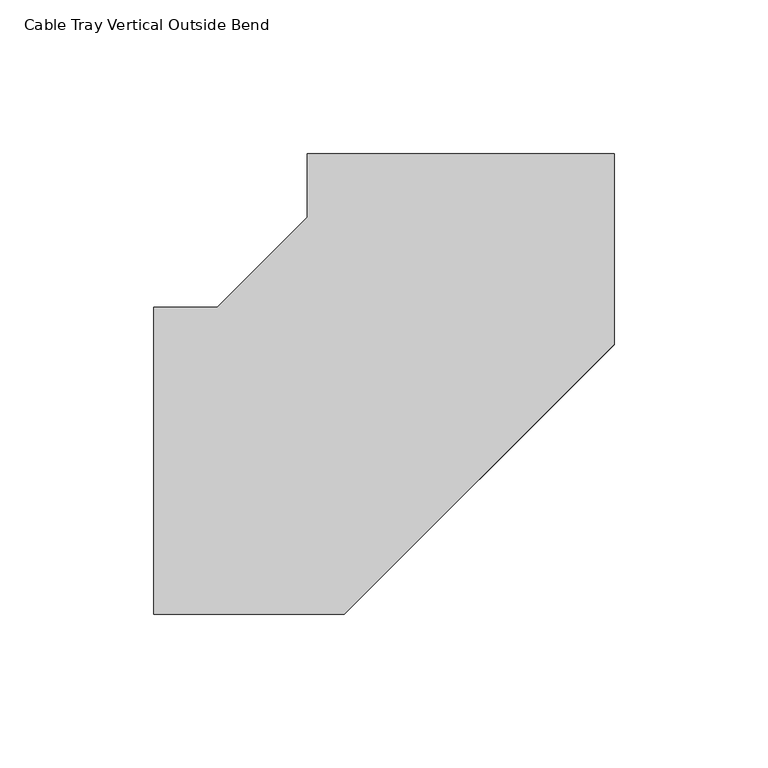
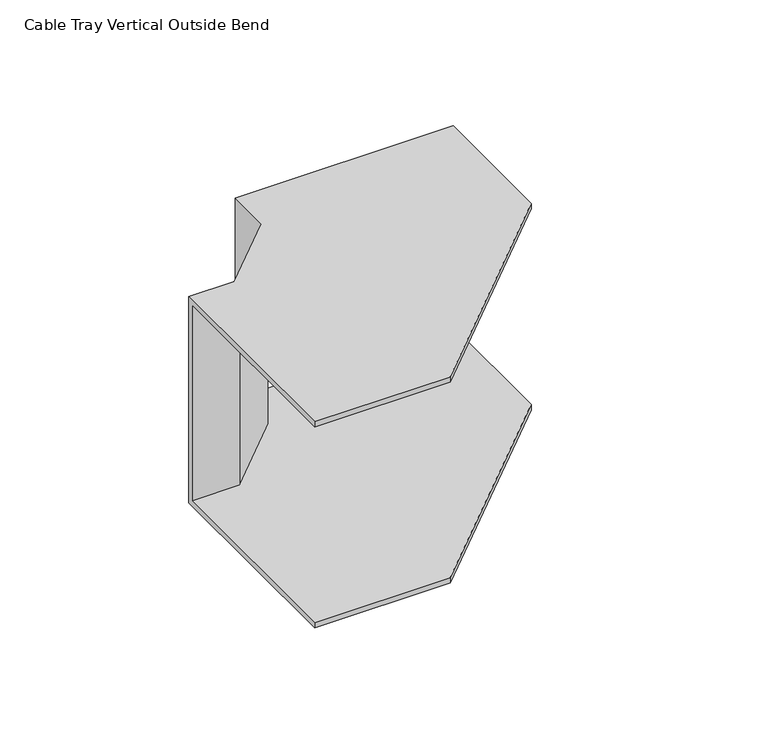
"""IFC4 building model written with IfcOpenShell, lengths in millimetres: cable carrier fitting geometry, Cable Tray Vertical Outside Bend : ELEC_ELV_TKG_N2402."""

from ifc_helpers import new_model, si_unit, origin, place, context, project, spatial, faceted_brep, source, transform, mapped, element, save


def cable_tray_vertical_outside_bend_c48c2dc3(model_context):
    return source(origin(), model_context, "Body", "Brep", [
        faceted_brep([(-99.9981855, -50.0, 50.0), (-99.9981855, 50.0, 50.0), (-99.9981855, 50.0, -50.0), (-99.9981855, -50.0, -50.0), (-99.9981855, -50.0, -47.46), (-99.9981855, 47.46, -47.46), (-99.9981855, 47.46, 47.46), (-99.9981855, -50.0, 47.46), (50.0018145, 99.9972782, 50.0), (50.0018145, 99.9972782, 47.46), (-47.4581855, 99.9990467, 47.46), (-47.4581855, 99.9990467, -47.46), (50.0018145, 99.9972782, -47.46), (50.0018145, 99.9972782, -50.0), (-49.9981855, 99.9990927, -50.0), (-49.9981855, 99.9990927, 50.0), (-37.8669483, -50.0, 50.0), (50.0006871, 37.8660411, 50.0), (-49.9985613, 79.2886804, 50.0), (-79.2877731, 50.0, 50.0), (-79.2877731, 50.0, -50.0), (-49.9985613, 79.2886804, -50.0), (50.0006871, 37.8660411, -50.0), (-37.8669483, -50.0, -50.0), (-37.8669483, -50.0, -47.46), (50.0006871, 37.8660411, -47.46), (-47.4585804, 78.2365453, -47.46), (-78.2356842, 47.46, -47.46), (-78.2356842, 47.46, 47.46), (-47.4585804, 78.2365453, 47.46), (50.0006871, 37.8660411, 47.46), (-37.8669483, -50.0, 47.46)], [[[0, 1, 2, 3, 4, 5, 6, 7]], [[8, 9, 10, 11, 12, 13, 14, 15]], [[1, 0, 16, 17, 8, 15, 18, 19]], [[2, 1, 19, 20]], [[3, 2, 20, 21, 14, 13, 22, 23]], [[4, 3, 23, 24]], [[5, 4, 24, 25, 12, 11, 26, 27]], [[6, 5, 27, 28]], [[7, 6, 28, 29, 10, 9, 30, 31]], [[0, 7, 31, 16]], [[20, 19, 18, 21]], [[24, 23, 22, 25]], [[28, 27, 26, 29]], [[16, 31, 30, 17]], [[21, 18, 15, 14]], [[25, 22, 13, 12]], [[29, 26, 11, 10]], [[17, 30, 9, 8]]]),
    ])


if __name__ == "__main__":
    model = new_model("IFC4")
    model_context = context("Model", 3, world=origin())
    ifc_project = project(units=[si_unit("LENGTHUNIT", "METRE", prefix="MILLI")], contexts=[model_context])
    site = spatial("IfcSite", under=ifc_project)
    building = spatial("IfcBuilding", under=site)
    placement = place(None, origin())
    cable_tray_vertical_outside_bend_shape = cable_tray_vertical_outside_bend_c48c2dc3(model_context)
    element("IfcCableCarrierFitting", 1, ObjectType="Cable Tray Vertical Outside Bend : ELEC_ELV_TKG_N2402", at=placement, inside=building, context=model_context, shape_type="MappedRepresentation", body=[
        mapped(cable_tray_vertical_outside_bend_shape, transform((0.0, 0.0, 0.0), x_axis=(1.0, 0.0, 0.0), y_axis=(0.0, 1.0, 0.0), z_axis=(0.0, 0.0, 1.0))),
    ])
    save(model, "model.ifc")
